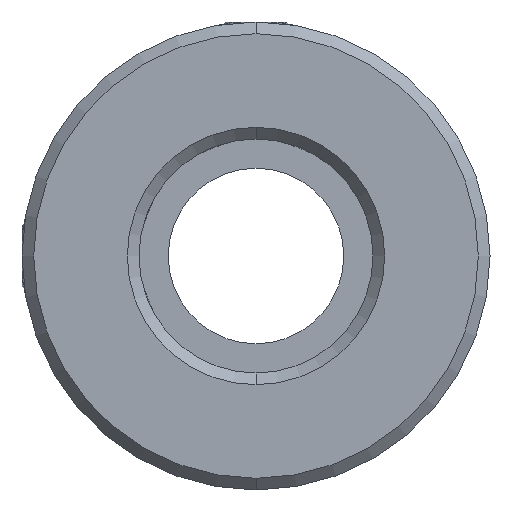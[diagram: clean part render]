
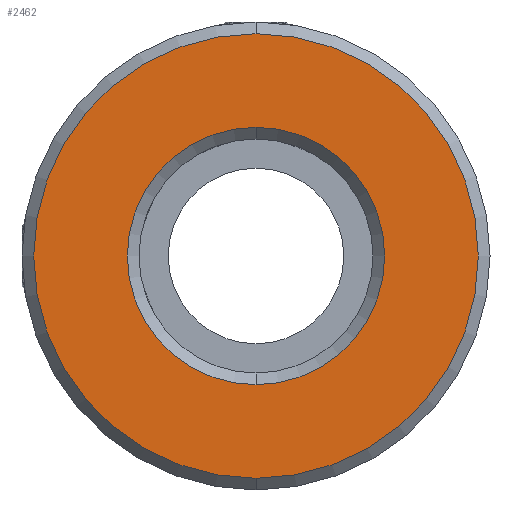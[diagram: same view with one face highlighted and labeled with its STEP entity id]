
A CAD part, front view. The second image highlights one B-rep face of the part: STEP entity #2462.
In plain terms, the highlighted planar face has unit normal (0, -1, 0).
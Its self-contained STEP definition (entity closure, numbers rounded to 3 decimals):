
#54 = EDGE_LOOP ( 'NONE', ( #2102, #457 ) ) ;
#109 = ORIENTED_EDGE ( 'NONE', *, *, #1673, .T. ) ;
#128 = FACE_BOUND ( 'NONE', #3694, .T. ) ;
#263 = DIRECTION ( 'NONE',  ( 0., 0., 1. ) ) ;
#279 = EDGE_CURVE ( 'NONE', #670, #344, #1209, .T. ) ;
#344 = VERTEX_POINT ( 'NONE', #1814 ) ;
#435 = DIRECTION ( 'NONE',  ( 0., 0., 1. ) ) ;
#457 = ORIENTED_EDGE ( 'NONE', *, *, #2275, .T. ) ;
#509 = DIRECTION ( 'NONE',  ( 0., 0., 1. ) ) ;
#528 = AXIS2_PLACEMENT_3D ( 'NONE', #2105, #693, #3258 ) ;
#670 = VERTEX_POINT ( 'NONE', #1754 ) ;
#693 = DIRECTION ( 'NONE',  ( 0., -1., 0. ) ) ;
#726 = EDGE_CURVE ( 'NONE', #3580, #2085, #2647, .T. ) ;
#1080 = DIRECTION ( 'NONE',  ( 0., 1., 0. ) ) ;
#1163 = DIRECTION ( 'NONE',  ( 0., -1., 0. ) ) ;
#1209 = CIRCLE ( 'NONE', #2952, 8.8 ) ;
#1385 = ORIENTED_EDGE ( 'NONE', *, *, #279, .T. ) ;
#1673 = EDGE_CURVE ( 'NONE', #344, #670, #2385, .T. ) ;
#1754 = CARTESIAN_POINT ( 'NONE',  ( -10.188, -0.277, 8.846 ) ) ;
#1792 = AXIS2_PLACEMENT_3D ( 'NONE', #2306, #1163, #263 ) ;
#1814 = CARTESIAN_POINT ( 'NONE',  ( -10.188, -0.277, -8.754 ) ) ;
#2085 = VERTEX_POINT ( 'NONE', #2391 ) ;
#2102 = ORIENTED_EDGE ( 'NONE', *, *, #726, .T. ) ;
#2105 = CARTESIAN_POINT ( 'NONE',  ( -10.188, -0.277, 0.046 ) ) ;
#2243 = DIRECTION ( 'NONE',  ( 0., 1., 0. ) ) ;
#2262 = DIRECTION ( 'NONE',  ( 0., 1., 0. ) ) ;
#2275 = EDGE_CURVE ( 'NONE', #2085, #3580, #3539, .T. ) ;
#2284 = AXIS2_PLACEMENT_3D ( 'NONE', #3105, #2262, #2825 ) ;
#2306 = CARTESIAN_POINT ( 'NONE',  ( -10.188, -0.277, 0.046 ) ) ;
#2385 = CIRCLE ( 'NONE', #2980, 8.8 ) ;
#2391 = CARTESIAN_POINT ( 'NONE',  ( -10.188, -0.277, -15.154 ) ) ;
#2456 = PLANE ( 'NONE',  #2284 ) ;
#2462 = ADVANCED_FACE ( 'NONE', ( #3676, #128 ), #2456, .F. ) ;
#2647 = CIRCLE ( 'NONE', #528, 15.2 ) ;
#2825 = DIRECTION ( 'NONE',  ( 0., 0., 1. ) ) ;
#2952 = AXIS2_PLACEMENT_3D ( 'NONE', #3615, #2243, #435 ) ;
#2980 = AXIS2_PLACEMENT_3D ( 'NONE', #3114, #1080, #509 ) ;
#3105 = CARTESIAN_POINT ( 'NONE',  ( -10.188, -0.277, 0.046 ) ) ;
#3114 = CARTESIAN_POINT ( 'NONE',  ( -10.188, -0.277, 0.046 ) ) ;
#3258 = DIRECTION ( 'NONE',  ( 0., 0., 1. ) ) ;
#3366 = CARTESIAN_POINT ( 'NONE',  ( -10.188, -0.277, 15.246 ) ) ;
#3539 = CIRCLE ( 'NONE', #1792, 15.2 ) ;
#3580 = VERTEX_POINT ( 'NONE', #3366 ) ;
#3615 = CARTESIAN_POINT ( 'NONE',  ( -10.188, -0.277, 0.046 ) ) ;
#3676 = FACE_OUTER_BOUND ( 'NONE', #54, .T. ) ;
#3694 = EDGE_LOOP ( 'NONE', ( #109, #1385 ) ) ;
